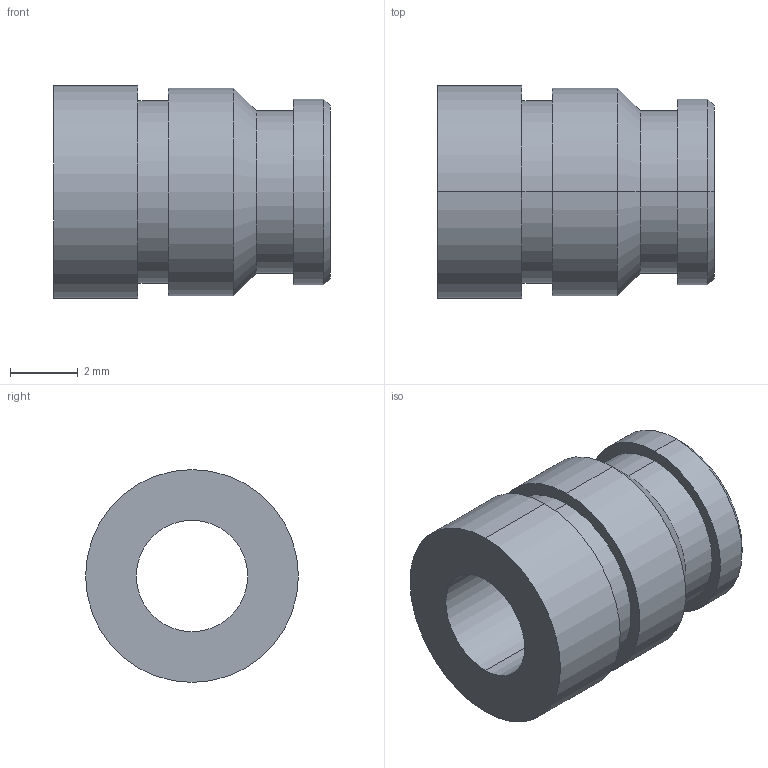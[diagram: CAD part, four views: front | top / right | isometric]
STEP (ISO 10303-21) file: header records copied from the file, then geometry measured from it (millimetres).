
FILE_DESCRIPTION (( 'STEP AP203' ), '1' );
FILE_NAME ('FSUK-HIS-M04-S.STEP', '2021-04-15T08:42:23', ( '' ), ( '' ), 'SwSTEP 2.0', 'SolidWorks 2021', '' );
FILE_SCHEMA (( 'CONFIG_CONTROL_DESIGN' ));
Length unit declared in the file: millimetre
Products named in the file (1): FSUK-HIS-M04-S
Bounding box: 8.2 x 6.3 x 6.3 mm (x, y, z)
Volume: 146.4 mm3; surface area: 293.2 mm2
Topology: 1 solids, 1 shells, 23 faces, 46 edges, 28 vertices
Faces by surface type: cylinder 12, cone 6, plane 5
Entity records: 685 total; most frequent: DIRECTION 122, CARTESIAN_POINT 98, ORIENTED_EDGE 92, AXIS2_PLACEMENT_3D 52, EDGE_CURVE 46, EDGE_LOOP 28, CIRCLE 28, VERTEX_POINT 28
